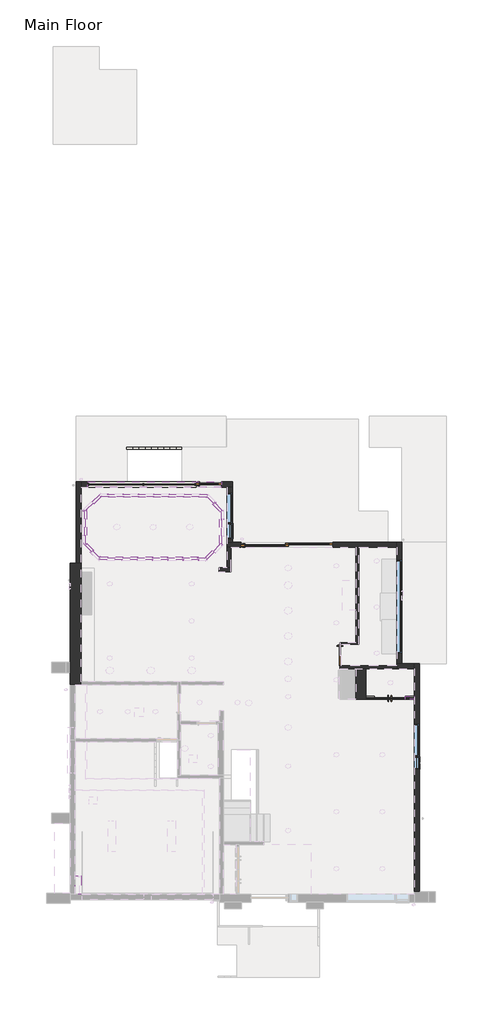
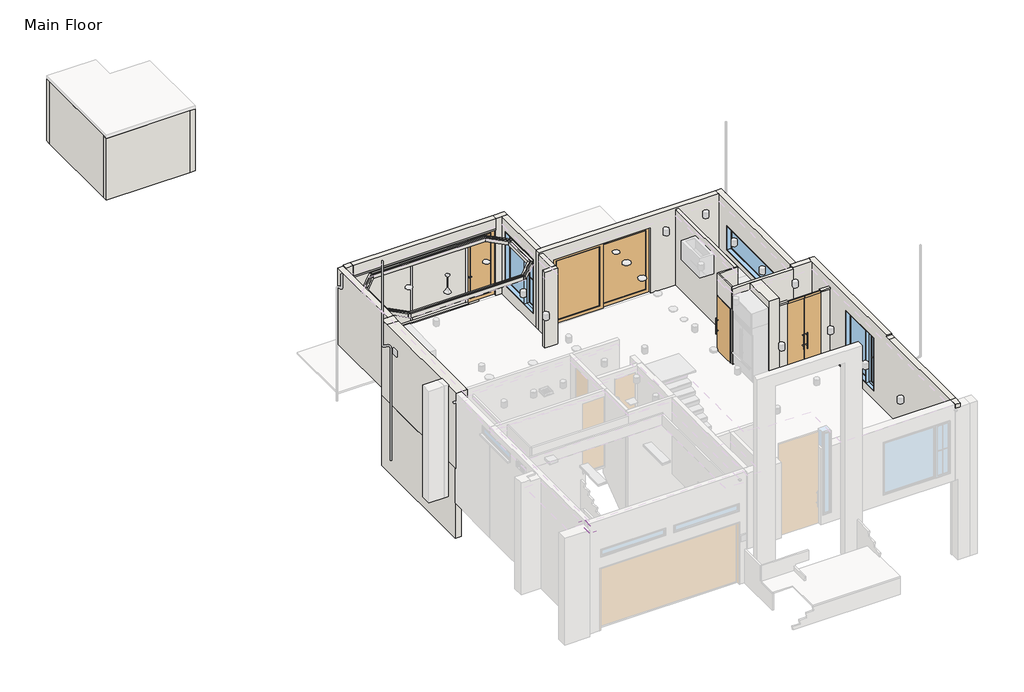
# One storey, part 2 of 4: 49 walls, 11 doors, 5 windows, 1 covering.
"""IFC4 building model written with IfcOpenShell, lengths in millimetres."""

from ifc_helpers import new_model, si_unit, frame, origin, origin_with_axes, place, context, project, spatial, polyline, outline, extrude, faceted_brep, transform, mapped, element, save
from components import door_f9c3aceb, door_71ea24f5, door_24a6677c, door_f6d2234c, door_3d285e39, door_d0fec1b0, door_3f9b8e73, door_c68eb9f7, door_82c8d47d, door_a6112daf, door_d809778b, default_1_b9475a36, default_1_ff99e3d3, default_1_269046d4, default_1_73fc72e4, default_1_8900c659

model = new_model("IFC4")

# Units and contexts
model_context = context("Model", 3, world=origin())
ifc_project = project(units=[si_unit("LENGTHUNIT", "METRE", prefix="MILLI")], contexts=[model_context])

# Site, building, storey
site = spatial("IfcSite", under=ifc_project)
building = spatial("IfcBuilding", under=site)
storey = spatial("IfcBuildingStorey", under=building, Name="Main Floor", Elevation=0.0)

# Covering
placement = place(None, origin())
element("IfcCovering", 1, ObjectType="1/2\" Ceiling", at=placement, inside=storey, context=model_context, shape_type="SweptSolid", body=[
    extrude(outline(polyline([(8017.6549773, 246.3909405), (8246.2549773, 246.3909405), (8246.2549773, -490.2090595), (8017.6549773, -490.2090595), (8017.6549773, 246.3909405)])), frame((0.0, 0.0, 2438.4), z_axis=(0.0, 0.0, 1.0), x_axis=(1.0, 0.0, 0.0)), (0.0, 0.0, 1.0), 12.7),
])

# Doors
door_shape = door_f9c3aceb(model_context)
element("IfcDoor", 2, ObjectType="Planitar - Swap_Full Glass_Panel_D2 : Planitar - Swap_Full Glass_Panel_D2", at=placement, inside=storey, context=model_context, shape_type="MappedRepresentation", body=[
    mapped(door_shape, transform((20196.9549773, 7280.7508405, 0.0), x_axis=(-1.0, 0.0, 0.0), y_axis=(0.0, -1.0, 0.0), z_axis=(0.0, 0.0, 1.0))),
])
door_2_shape = door_71ea24f5(model_context)
element("IfcDoor", 3, ObjectType="Planitar - Swap_Full Glass_Panel_D2 : Planitar - Swap_Full Glass_Panel_D2", at=placement, inside=storey, context=model_context, shape_type="MappedRepresentation", body=[
    mapped(door_2_shape, transform((20806.5549773, 7280.7508405, 0.0), x_axis=(1.0, 0.0, 0.0), y_axis=(0.0, 1.0, 0.0), z_axis=(0.0, 0.0, 1.0))),
])
door_3_shape = door_24a6677c(model_context)
element("IfcDoor", 4, ObjectType="Planitar - Swap_Flush Panel : Planitar - Swap_Flush Panel", at=placement, inside=storey, context=model_context, shape_type="MappedRepresentation", body=[
    mapped(door_3_shape, transform((18520.6517773, 9003.0409405, 0.0), x_axis=(0.0, -1.0, 0.0), y_axis=(1.0, 0.0, 0.0), z_axis=(0.0, 0.0, 1.0))),
])
door_4_shape = door_f6d2234c(model_context)
element("IfcDoor", 5, ObjectType="Planitar - Swap_Full Glass_Panel : Planitar - Swap_Full Glass_Panel", at=placement, inside=storey, context=model_context, shape_type="MappedRepresentation", body=[
    mapped(door_4_shape, transform((17295.1123773, 13403.5909405, 0.0), x_axis=(1.0, 0.0, 0.0), y_axis=(0.0, 1.0, 0.0), z_axis=(0.0, 0.0, 1.0))),
])
door_5_shape = door_3d285e39(model_context)
element("IfcDoor", 6, ObjectType="Planitar - Swap_Full Glass_Panel : Planitar - Swap_Full Glass_Panel", at=placement, inside=storey, context=model_context, shape_type="MappedRepresentation", body=[
    mapped(door_5_shape, transform((15542.5123773, 13352.7909405, 0.0), x_axis=(-1.0, 0.0, 0.0), y_axis=(0.0, -1.0, 0.0), z_axis=(0.0, 0.0, 1.0))),
])
door_6_shape = door_d0fec1b0(model_context)
element("IfcDoor", 7, ObjectType="Planitar - Swap_Full Glass_Panel : Planitar - Swap_Full Glass_Panel", at=placement, inside=storey, context=model_context, shape_type="MappedRepresentation", body=[
    mapped(door_6_shape, transform((13320.0017773, 15791.1909405, 0.0), x_axis=(1.0, 0.0, 0.0), y_axis=(0.0, 1.0, 0.0), z_axis=(0.0, 0.0, 1.0))),
])
door_7_shape = door_3f9b8e73(model_context)
element("IfcDoor", 8, ObjectType="Planitar - Swap_Barn Panel : Planitar - Swap_Barn Panel", at=placement, inside=storey, context=model_context, shape_type="MappedRepresentation", body=[
    mapped(door_7_shape, transform((10379.8517773, 31412.9463405, -2133.6), x_axis=(0.0, 1.0, 0.0), y_axis=(-1.0, 0.0, 0.0), z_axis=(0.0, 0.0, 1.0))),
])
door_8_shape = door_c68eb9f7(model_context)
element("IfcDoor", 9, ObjectType="Planitar - Single Door_Swapper : 7'0\" X 2'10\"", at=placement, inside=storey, context=model_context, shape_type="MappedRepresentation", body=[
    mapped(door_8_shape, transform((18546.0517773, 9003.0409405, 0.0), x_axis=(0.0, -1.0, 0.0), y_axis=(1.0, 0.0, 0.0), z_axis=(0.0, 0.0, 1.0))),
])
door_9_shape = door_82c8d47d(model_context)
element("IfcDoor", 10, ObjectType="Planitar - Sliding Door_Swapper : 8'6\" x 11'10\"", at=placement, inside=storey, context=model_context, shape_type="MappedRepresentation", body=[
    mapped(door_9_shape, transform((17447.5123773, 13378.1909405, 0.0), x_axis=(1.0, 0.0, 0.0), y_axis=(0.0, 1.0, 0.0), z_axis=(0.0, 0.0, 1.0))),
])
door_10_shape = door_a6112daf(model_context)
element("IfcDoor", 11, ObjectType="Planitar - Single Door_Swapper : 8'6\" x 3'4\"", at=placement, inside=storey, context=model_context, shape_type="MappedRepresentation", body=[
    mapped(door_10_shape, transform((13320.0017773, 15765.7909405, 0.0), x_axis=(1.0, 0.0, 0.0), y_axis=(0.0, 1.0, 0.0), z_axis=(0.0, 0.0, 1.0))),
])
door_11_shape = door_d809778b(model_context)
element("IfcDoor", 12, ObjectType="Planitar -Double Door_Swapper : 9'0\"-4'0\"", at=placement, inside=storey, context=model_context, shape_type="MappedRepresentation", body=[
    mapped(door_11_shape, transform((19892.1549773, 7306.1508405, 0.0), x_axis=(-1.0, 0.0, 0.0), y_axis=(0.0, -1.0, 0.0), z_axis=(0.0, 0.0, 1.0))),
])

# Walls
element("IfcWall", 13, ObjectType="Planitar - Generic 8\"", at=placement, inside=storey, context=model_context, shape_type="Brep", body=[
    faceted_brep([(21473.3049773, 8660.1409405, 0.0), (21473.3049773, 8456.9409405, 0.0), (21473.3049773, 7363.3008405, 0.0), (21473.3049773, 7249.0008405, 0.0), (21473.3049773, -388.6090595, 0.0), (21473.3049773, -388.6090595, 2844.8), (21473.3049773, -795.0090595, 2844.8), (21473.3049773, -795.0090595, 2997.2), (21473.3049773, -490.2090595, 2997.2), (21473.3049773, 3453.1409405, 2997.2), (21473.3049773, 3656.3409405, 2997.2), (21473.3049773, 3656.3409405, 3048.0), (21473.3049773, 8456.9409405, 3048.0), (21473.3049773, 8660.1409405, 3048.0), (21473.3049773, 6272.5409405, 2438.4), (21473.3049773, 4469.1409405, 2438.4), (21473.3049773, 4469.1409405, 355.6), (21473.3049773, 6272.5409405, 355.6), (21676.5049773, -388.6090595, 0.0), (21676.5049773, 8660.1409405, 0.0), (21676.5049773, 8660.1409405, 3048.0), (21676.5049773, 3656.3409405, 3048.0), (21676.5049773, 3656.3409405, 2997.2), (21676.5049773, 3453.1409405, 2997.2), (21676.5049773, -490.2090595, 2997.2), (21676.5049773, -795.0090595, 2997.2), (21676.5049773, -795.0090595, 2844.8), (21676.5049773, -388.6090595, 2844.8), (21676.5049773, 6272.5409405, 355.6), (21676.5049773, 4469.1409405, 355.6), (21676.5049773, 4469.1409405, 2438.4), (21676.5049773, 6272.5409405, 2438.4), (21549.6017773, -388.6090595, 0.0)], [[[0, 1, 2, 3, 4, 5, 6, 7, 8, 9, 10, 11, 12, 13], [14, 15, 16, 17]], [[18, 19, 20, 21, 22, 23, 24, 25, 26, 27], [28, 29, 30, 31]], [[4, 3, 2, 1, 0, 19, 18, 32]], [[0, 13, 20, 19]], [[15, 30, 29, 16]], [[16, 29, 28, 17]], [[30, 15, 14, 31]], [[17, 28, 31, 14]], [[4, 32, 18, 27, 5]], [[25, 7, 6, 26]], [[7, 25, 24, 8]], [[23, 9, 8, 24]], [[9, 23, 22, 10]], [[11, 10, 22, 21]], [[13, 12, 11, 21, 20]], [[6, 5, 27, 26]]]),
])
element("IfcWall", 14, ObjectType="Planitar - Generic 1' - 5\"", at=placement, inside=storey, context=model_context, shape_type="Brep", body=[
    faceted_brep([(8246.2549773, 7824.1282405, 0.0), (8246.2549773, 7938.4282405, 0.0), (8246.2549773, 12641.5909405, 0.0), (8246.2549773, 12641.5909405, 2997.2), (8246.2549773, 12298.6909405, 2997.2), (8246.2549773, 7938.4282405, 2997.2), (8246.2549773, 7824.1282405, 2997.2), (7814.4549773, 7824.1282405, 0.0), (7814.4549773, 7824.1282405, 2997.2), (7814.4549773, 12298.6909405, 2997.2), (7814.4549773, 12400.2909405, 2997.2), (7814.4549773, 12451.0909405, 2997.2), (7814.4549773, 12501.8909405, 2997.2), (7814.4549773, 12641.5909405, 2997.2), (7814.4549773, 12641.5909405, 2832.1), (7814.4549773, 12641.5909405, 0.0), (8017.6549773, 7824.1282405, 0.0), (8043.0549773, 12641.5909405, 0.0), (8043.0549773, 12641.5909405, 2997.2), (8017.6549773, 7824.1282405, 2997.2)], [[[0, 1, 2, 3, 4, 5, 6]], [[7, 8, 9, 10, 11, 12, 13, 14, 15]], [[2, 1, 0, 16, 7, 15, 17]], [[3, 2, 17, 15, 14, 13, 18]], [[0, 6, 19, 8, 7, 16]], [[4, 3, 18, 13, 12, 11, 10, 9]], [[6, 5, 4, 9, 8, 19]]]),
])
element("IfcWall", 15, ObjectType="Planitar - Generic 8\"", at=placement, inside=storey, context=model_context, shape_type="Brep", body=[
    faceted_brep([(8246.2549773, 15664.1909405, 0.0), (8500.3517773, 15664.1909405, 0.0), (8500.3517773, 15664.1909405, 50.8), (8500.3517773, 15664.1909405, 2590.8), (8500.3517773, 15664.1909405, 2641.6), (8500.3517773, 15664.1909405, 3048.0), (8246.2549773, 15664.1909405, 3048.0), (8246.2549773, 15867.3909405, 0.0), (8246.2549773, 15867.3909405, 2997.2), (8246.2549773, 15867.3909405, 3048.0), (8500.3517773, 15867.3909405, 3048.0), (8500.3517773, 15867.3909405, 2641.6), (8500.3517773, 15867.3909405, 50.8), (8500.3517773, 15867.3909405, 0.0)], [[[0, 1, 2, 3, 4, 5, 6]], [[7, 8, 9, 10, 11, 12, 13]], [[1, 0, 7, 13]], [[6, 5, 10, 9]], [[0, 6, 9, 8, 7]], [[1, 13, 12, 11, 10, 5, 4, 3, 2]]]),
])
element("IfcWall", 16, ObjectType="Planitar - Generic 8\"", at=placement, inside=storey, context=model_context, shape_type="Brep", body=[
    faceted_brep([(21473.3049773, 8660.1409405, 0.0), (21422.6017773, 8660.1409405, 0.0), (20984.3549773, 8660.1409405, 0.0), (20781.1549773, 8660.1409405, 0.0), (20781.1549773, 8660.1409405, 3048.0), (20984.3549773, 8660.1409405, 3048.0), (21447.9049773, 8660.1409405, 3048.0), (21473.3049773, 8660.1409405, 3048.0), (21473.3049773, 8456.9409405, 0.0), (21473.3049773, 8456.9409405, 3048.0), (21447.9049773, 8456.9409405, 3048.0), (20781.1549773, 8456.9409405, 3048.0), (20781.1549773, 8456.9409405, 2997.2), (20781.1549773, 8456.9409405, 0.0), (21422.6017773, 8456.9409405, 0.0), (20781.1549773, 8571.2409405, 0.0)], [[[0, 1, 2, 3, 4, 5, 6, 7]], [[8, 9, 10, 11, 12, 13, 14]], [[3, 2, 1, 0, 8, 14, 13, 15]], [[0, 7, 9, 8]], [[4, 3, 15, 13, 12, 11]], [[7, 6, 5, 4, 11, 10, 9]]]),
])
element("IfcWall", 17, ObjectType="Planitar - Generic 8\"", at=placement, inside=storey, context=model_context, shape_type="Brep", body=[
    faceted_brep([(20984.3549773, 8660.1409405, 0.0), (20984.3549773, 13479.7909405, 0.0), (20984.3549773, 13479.7909405, 3048.0), (20984.3549773, 8660.1409405, 3048.0), (20984.3549773, 12781.2906405, 1117.6), (20984.3549773, 9072.8912405, 1117.6), (20984.3549773, 9072.8912405, 2082.8), (20984.3549773, 12781.2906405, 2082.8), (20781.1549773, 8660.1409405, 0.0), (20781.1549773, 8660.1409405, 3048.0), (20781.1549773, 13276.5909405, 3048.0), (20781.1549773, 13479.7909405, 3048.0), (20781.1549773, 13479.7909405, 0.0), (20781.1549773, 13276.5909405, 0.0), (20781.1549773, 12781.2906405, 1117.6), (20781.1549773, 12781.2906405, 2082.8), (20781.1549773, 9072.8912405, 2082.8), (20781.1549773, 9072.8912405, 1117.6)], [[[0, 1, 2, 3], [4, 5, 6, 7]], [[8, 9, 10, 11, 12, 13], [14, 15, 16, 17]], [[1, 0, 8, 13, 12]], [[0, 3, 9, 8]], [[2, 1, 12, 11]], [[15, 14, 4, 7]], [[16, 15, 7, 6]], [[17, 16, 6, 5]], [[14, 17, 5, 4]], [[3, 2, 11, 10, 9]]]),
])
element("IfcWall", 18, ObjectType="Planitar - Generic 8\"", at=placement, inside=storey, context=model_context, shape_type="Brep", body=[
    faceted_brep([(20781.1549773, 13479.7909405, 3048.0), (20781.1549773, 13479.7909405, 0.0), (18234.9123773, 13479.7909405, 0.0), (18234.9123773, 13479.7909405, 2590.8), (14602.7123773, 13479.7909405, 2590.8), (14602.7123773, 13479.7909405, 0.0), (14253.3549773, 13479.7909405, 0.0), (14050.1549773, 13479.7909405, 0.0), (14050.1549773, 13479.7909405, 3048.0), (14253.3549773, 13479.7909405, 3048.0), (20781.1549773, 13276.5909405, 0.0), (20781.1549773, 13276.5909405, 3048.0), (14050.1549773, 13276.5909405, 3048.0), (14050.1549773, 13276.5909405, 2997.2), (14050.1549773, 13276.5909405, 0.0), (14202.5549773, 13276.5909405, 0.0), (14602.7123773, 13276.5909405, 0.0), (14602.7123773, 13276.5909405, 2590.8), (18234.9123773, 13276.5909405, 2590.8), (18234.9123773, 13276.5909405, 0.0), (19155.6623773, 13276.5909405, 0.0), (19269.9623773, 13276.5909405, 0.0)], [[[0, 1, 2, 3, 4, 5, 6, 7, 8, 9]], [[10, 11, 12, 13, 14, 15, 16, 17, 18, 19, 20, 21]], [[1, 10, 21, 20, 19, 2]], [[14, 7, 6, 5, 16, 15]], [[1, 0, 11, 10]], [[8, 7, 14, 13, 12]], [[0, 9, 8, 12, 11]], [[4, 17, 16, 5]], [[17, 4, 3, 18]], [[18, 3, 2, 19]]]),
])
element("IfcWall", 19, ObjectType="Planitar - Generic 8\"", at=placement, inside=storey, context=model_context, shape_type="SweptSolid", body=[
    extrude(outline(polyline([(15664.1909405, 0.0), (13479.7909405, 0.0), (13479.7909405, 3048.0), (15664.1909405, 3048.0), (15664.1909405, 0.0)]), holes=[polyline([(13613.1409405, 457.2), (15441.9409405, 457.2), (15441.9409405, 2590.8), (13613.1409405, 2590.8), (13613.1409405, 457.2)])]), frame((14050.1549773, 0.0, 0.0), z_axis=(1.0, 0.0, 0.0), x_axis=(0.0, 1.0, 0.0)), (0.0, 0.0, 1.0), 203.2),
])
element("IfcWall", 20, ObjectType="Planitar - Generic 6\"", at=placement, inside=storey, context=model_context, shape_type="SweptSolid", body=[
    extrude(outline(polyline([(14050.1549773, 12457.4409405), (14050.1549773, 13276.5909405), (14202.5549773, 13276.5909405), (14202.5549773, 12457.4409405), (14050.1549773, 12457.4409405)])), origin_with_axes(), (0.0, 0.0, 1.0), 2997.2),
])
element("IfcWall", 21, ObjectType="Planitar - Generic 6\"", at=placement, inside=storey, context=model_context, shape_type="Brep", body=[
    faceted_brep([(14202.5549773, 12457.4409405, 0.0), (14050.1549773, 12457.4409405, 0.0), (13720.1485773, 12457.4409405, 0.0), (13720.1485773, 12457.4409405, 2997.2), (14050.1549773, 12457.4409405, 2997.2), (14202.5549773, 12457.4409405, 2997.2), (14202.5549773, 12305.0409405, 0.0), (14202.5549773, 12305.0409405, 2997.2), (13720.1485773, 12305.0409405, 2997.2), (13720.1485773, 12305.0409405, 0.0)], [[[0, 1, 2, 3, 4, 5]], [[6, 7, 8, 9]], [[2, 1, 0, 6, 9]], [[3, 2, 9, 8]], [[0, 5, 7, 6]], [[5, 4, 3, 8, 7]]]),
])
element("IfcWall", 22, ObjectType="Planitar - Generic 1' - 4\"", at=placement, inside=storey, context=model_context, shape_type="SweptSolid", body=[
    extrude(outline(polyline([(19155.5549773, 7249.0008405), (19155.5549773, 8456.9409405), (19561.9549773, 8456.9409405), (19561.9549773, 7249.0008405), (19155.5549773, 7249.0008405)])), origin_with_axes(), (0.0, 0.0, 1.0), 2997.2),
])
element("IfcWall", 23, ObjectType="Planitar - Generic 4 1/2\"", at=placement, inside=storey, context=model_context, shape_type="Brep", body=[
    faceted_brep([(20781.1549773, 8571.2409405, 0.0), (18520.6517773, 8571.2409405, 0.0), (18520.6517773, 8571.2409405, 2133.6), (18520.6517773, 8571.2409405, 2997.2), (18571.4517773, 8571.2409405, 2997.2), (20781.1549773, 8571.2409405, 2997.2), (20781.1549773, 8456.9409405, 0.0), (20781.1549773, 8456.9409405, 2997.2), (19561.9549773, 8456.9409405, 2997.2), (19155.5549773, 8456.9409405, 2997.2), (18520.6517773, 8456.9409405, 2997.2), (18520.6517773, 8456.9409405, 0.0), (19155.5549773, 8456.9409405, 0.0), (19561.9549773, 8456.9409405, 0.0)], [[[0, 1, 2, 3, 4, 5]], [[6, 7, 8, 9, 10, 11, 12, 13]], [[1, 0, 6, 13, 12, 11]], [[0, 5, 7, 6]], [[3, 2, 1, 11, 10]], [[5, 4, 3, 10, 9, 8, 7]]]),
])
element("IfcWall", 24, ObjectType="Planitar - Generic 2\"", at=placement, inside=storey, context=model_context, shape_type="Brep", body=[
    faceted_brep([(18571.4517773, 9485.6409405, 0.0), (18571.4517773, 9485.6409405, 2997.2), (18571.4517773, 9434.8409405, 2997.2), (18571.4517773, 8571.2409405, 2997.2), (18571.4517773, 8571.2409405, 2133.6), (18571.4517773, 9434.8409405, 2133.6), (18571.4517773, 9434.8409405, 0.0), (18520.6517773, 9485.6409405, 2997.2), (18520.6517773, 9485.6409405, 0.0), (18520.6517773, 9434.8409405, 0.0), (18520.6517773, 9434.8409405, 2133.6), (18520.6517773, 8571.2409405, 2133.6), (18520.6517773, 8571.2409405, 2997.2)], [[[0, 1, 2, 3, 4, 5, 6]], [[7, 8, 9, 10, 11, 12]], [[8, 0, 6, 9]], [[3, 12, 11, 4]], [[1, 0, 8, 7]], [[3, 2, 1, 7, 12]], [[10, 5, 4, 11]], [[5, 10, 9, 6]]]),
])
element("IfcWall", 25, ObjectType="Planitar - Generic 2\"", at=placement, inside=storey, context=model_context, shape_type="Brep", body=[
    faceted_brep([(18571.4517773, 9434.8409405, 0.0), (19269.9623773, 9434.8409405, 0.0), (19269.9623773, 9434.8409405, 2997.2), (18571.4517773, 9434.8409405, 2997.2), (18571.4517773, 9434.8409405, 2133.6), (18571.4517773, 9485.6409405, 0.0), (18571.4517773, 9485.6409405, 2997.2), (19155.6623773, 9485.6409405, 2997.2), (19269.9623773, 9485.6409405, 2997.2), (19269.9623773, 9485.6409405, 0.0), (19155.6623773, 9485.6409405, 0.0)], [[[0, 1, 2, 3, 4]], [[5, 6, 7, 8, 9, 10]], [[1, 0, 5, 10, 9]], [[0, 4, 3, 6, 5]], [[2, 1, 9, 8]], [[3, 2, 8, 7, 6]]]),
])
element("IfcWall", 26, ObjectType="Planitar - Generic 4 1/2\"", at=placement, inside=storey, context=model_context, shape_type="SweptSolid", body=[
    extrude(outline(polyline([(19269.9623773, 13276.5909405), (19269.9623773, 9485.6409405), (19155.6623773, 9485.6409405), (19155.6623773, 13276.5909405), (19269.9623773, 13276.5909405)])), origin_with_axes(), (0.0, 0.0, 1.0), 2997.2),
])
element("IfcWall", 27, ObjectType="Planitar - Generic 4 1/2\"", at=placement, inside=storey, context=model_context, shape_type="Brep", body=[
    faceted_brep([(19561.9549773, 7249.0008405, 50.8), (19561.9549773, 7249.0008405, 0.0), (19892.1549773, 7249.0008405, 0.0), (19892.1549773, 7249.0008405, 50.8), (19561.9549773, 7363.3008405, 0.0), (19561.9549773, 7363.3008405, 50.8), (19892.1549773, 7363.3008405, 50.8), (19892.1549773, 7363.3008405, 0.0), (19561.9549773, 7293.4508405, 50.8), (19561.9549773, 7318.8508405, 50.8), (19892.1549773, 7293.4508405, 50.8), (19892.1549773, 7318.8508405, 50.8)], [[[0, 1, 2, 3]], [[4, 5, 6, 7]], [[1, 4, 7, 2]], [[1, 0, 8, 9, 5, 4]], [[5, 9, 8, 0, 3, 10, 11, 6]], [[3, 2, 7, 6, 11, 10]]]),
    faceted_brep([(21473.3049773, 7249.0008405, 0.0), (21473.3049773, 7249.0008405, 50.8), (21111.3549773, 7249.0008405, 50.8), (21111.3549773, 7249.0008405, 0.0), (21473.3049773, 7363.3008405, 50.8), (21473.3049773, 7363.3008405, 0.0), (21111.3549773, 7363.3008405, 0.0), (21111.3549773, 7363.3008405, 50.8), (21473.3049773, 7318.8508405, 50.8), (21473.3049773, 7293.4508405, 50.8), (21111.3549773, 7318.8508405, 50.8), (21111.3549773, 7293.4508405, 50.8)], [[[0, 1, 2, 3]], [[4, 5, 6, 7]], [[5, 0, 3, 6]], [[1, 0, 5, 4, 8, 9]], [[1, 9, 8, 4, 7, 10, 11, 2]], [[3, 2, 11, 10, 7, 6]]]),
])
element("IfcWall", 28, ObjectType="Planitar - Curtain wall (Curved)", at=placement, inside=storey, context=model_context, shape_type="SweptSolid", body=[
    extrude(outline(polyline([(19561.9549773, 7293.4508405), (19561.9549773, 7318.8508405), (19892.1549773, 7318.8508405), (19892.1549773, 7293.4508405), (19561.9549773, 7293.4508405)])), frame((0.0, 0.0, 50.8), z_axis=(0.0, 0.0, 1.0), x_axis=(1.0, 0.0, 0.0)), (0.0, 0.0, 1.0), 2641.6),
    extrude(outline(polyline([(21473.3049773, 7318.8508405), (21473.3049773, 7293.4508405), (21111.3549773, 7293.4508405), (21111.3549773, 7318.8508405), (21473.3049773, 7318.8508405)])), frame((0.0, 0.0, 50.8), z_axis=(0.0, 0.0, 1.0), x_axis=(1.0, 0.0, 0.0)), (0.0, 0.0, 1.0), 2641.6),
])
element("IfcWall", 29, ObjectType="Planitar - Generic 4 1/2\"", at=placement, inside=storey, context=model_context, shape_type="Brep", body=[
    faceted_brep([(19561.9549773, 7249.0008405, 2743.2), (19561.9549773, 7249.0008405, 2692.4), (19892.1549773, 7249.0008405, 2692.4), (19892.1549773, 7249.0008405, 2743.2), (19561.9549773, 7363.3008405, 2692.4), (19561.9549773, 7363.3008405, 2743.2), (19892.1549773, 7363.3008405, 2743.2), (19892.1549773, 7363.3008405, 2692.4), (19561.9549773, 7293.4508405, 2692.4), (19561.9549773, 7318.8508405, 2692.4), (19892.1549773, 7318.8508405, 2692.4), (19892.1549773, 7293.4508405, 2692.4)], [[[0, 1, 2, 3]], [[4, 5, 6, 7]], [[1, 8, 9, 4, 7, 10, 11, 2]], [[1, 0, 5, 4, 9, 8]], [[5, 0, 3, 6]], [[3, 2, 11, 10, 7, 6]]]),
    faceted_brep([(21473.3049773, 7249.0008405, 2692.4), (21473.3049773, 7249.0008405, 2743.2), (21111.3549773, 7249.0008405, 2743.2), (21111.3549773, 7249.0008405, 2692.4), (21473.3049773, 7363.3008405, 2743.2), (21473.3049773, 7363.3008405, 2692.4), (21111.3549773, 7363.3008405, 2692.4), (21111.3549773, 7363.3008405, 2743.2), (21473.3049773, 7318.8508405, 2692.4), (21473.3049773, 7293.4508405, 2692.4), (21111.3549773, 7293.4508405, 2692.4), (21111.3549773, 7318.8508405, 2692.4)], [[[0, 1, 2, 3]], [[4, 5, 6, 7]], [[5, 8, 9, 0, 3, 10, 11, 6]], [[1, 0, 9, 8, 5, 4]], [[1, 4, 7, 2]], [[3, 2, 7, 6, 11, 10]]]),
])
element("IfcWall", 30, ObjectType="Planitar - Generic 4 1/2\"", at=placement, inside=storey, context=model_context, shape_type="Brep", body=[
    faceted_brep([(8252.7985773, 12326.8113405, 0.0), (8653.0474773, 12326.8113405, 0.0), (8767.3474773, 12326.8113405, 0.0), (8767.3474773, 12326.8113405, 558.8), (8653.0474773, 12326.8113405, 558.8), (8252.7985773, 12326.8113405, 558.8), (8767.3474773, 12441.1113405, 0.0), (8252.7985773, 12441.1113405, 0.0), (8252.7985773, 12441.1113405, 558.8), (8767.3474773, 12441.1113405, 558.8)], [[[0, 1, 2, 3, 4, 5]], [[6, 7, 8, 9]], [[2, 1, 0, 7, 6]], [[7, 0, 5, 8]], [[2, 6, 9, 3]], [[5, 4, 3, 9, 8]]]),
])
element("IfcWall", 31, ObjectType="Planitar - Generic 4 1/2\"", at=placement, inside=storey, context=model_context, shape_type="SweptSolid", body=[
    extrude(outline(polyline([(8653.0474773, 7938.4282405), (8653.0474773, 12326.8113405), (8767.3474773, 12326.8113405), (8767.3474773, 7938.4282405), (8653.0474773, 7938.4282405)])), origin_with_axes(), (0.0, 0.0, 1.0), 558.8),
])
element("IfcWall", 32, ObjectType="Planitar - Generic 8\"", at=placement, inside=storey, context=model_context, shape_type="Brep", body=[
    faceted_brep([(13828.0017773, 15664.1909405, 3048.0), (13828.0017773, 15664.1909405, 2641.6), (13828.0017773, 15664.1909405, 2590.8), (13828.0017773, 15664.1909405, 0.0), (14050.1549773, 15664.1909405, 0.0), (14253.3549773, 15664.1909405, 0.0), (14253.3549773, 15664.1909405, 3048.0), (14050.1549773, 15664.1909405, 3048.0), (13828.0017773, 15867.3909405, 0.0), (13828.0017773, 15867.3909405, 2641.6), (13828.0017773, 15867.3909405, 3048.0), (14253.3549773, 15867.3909405, 3048.0), (14253.3549773, 15867.3909405, 0.0)], [[[0, 1, 2, 3, 4, 5, 6, 7]], [[8, 9, 10, 11, 12]], [[5, 4, 3, 8, 12]], [[0, 7, 6, 11, 10]], [[6, 5, 12, 11]], [[0, 10, 9, 8, 3, 2, 1]]]),
])
element("IfcWall", 33, ObjectType="Planitar - Generic 8\"", at=placement, inside=storey, context=model_context, shape_type="Brep", body=[
    faceted_brep([(8500.3517773, 15664.1909405, 50.8), (8500.3517773, 15664.1909405, 0.0), (12812.0017773, 15664.1909405, 0.0), (12812.0017773, 15664.1909405, 50.8), (8500.3517773, 15867.3909405, 0.0), (8500.3517773, 15867.3909405, 50.8), (12812.0017773, 15867.3909405, 50.8), (12812.0017773, 15867.3909405, 0.0), (8500.3517773, 15778.4909405, 50.8), (8500.3517773, 15753.0909405, 50.8), (12812.0017773, 15753.0909405, 50.8), (12812.0017773, 15778.4909405, 50.8)], [[[0, 1, 2, 3]], [[4, 5, 6, 7]], [[1, 4, 7, 2]], [[5, 8, 9, 0, 3, 10, 11, 6]], [[1, 0, 9, 8, 5, 4]], [[3, 2, 7, 6, 11, 10]]]),
])
element("IfcWall", 34, ObjectType="Planitar - Curtain wall (Curved)", at=placement, inside=storey, context=model_context, shape_type="SweptSolid", body=[
    extrude(outline(polyline([(69.85, 10750.8540111), (69.85, 10687.3540111), (2590.8, 10687.3540111), (2590.8, 8563.8517773), (69.85, 8563.8517773), (69.85, 8500.3517773), (50.8, 8500.3517773), (50.8, 12812.0017773), (69.85, 12812.0017773), (69.85, 12748.5017773), (2590.8, 12748.5017773), (2590.8, 10750.8540111), (69.85, 10750.8540111)])), frame((0.0, 15753.0909405, 0.0), z_axis=(0.0, 1.0, 0.0), x_axis=(0.0, 0.0, 1.0)), (0.0, 0.0, 1.0), 25.4),
])
element("IfcWall", 35, ObjectType="Planitar - Generic 8\"", at=placement, inside=storey, context=model_context, shape_type="SweptSolid", body=[
    extrude(outline(polyline([(13828.0017773, 15664.1909405), (8500.3517773, 15664.1909405), (8500.3517773, 15867.3909405), (13828.0017773, 15867.3909405), (13828.0017773, 15664.1909405)])), frame((0.0, 0.0, 2641.6), z_axis=(0.0, 0.0, 1.0), x_axis=(1.0, 0.0, 0.0)), (0.0, 0.0, 1.0), 406.4),
])
element("IfcWall", 36, ObjectType="Planitar - Generic 2\"", at=placement, inside=storey, context=model_context, shape_type="Brep", body=[
    faceted_brep([(8474.9517773, 13369.4750385, 2603.5), (8474.9517773, 13441.3170874, 2603.5), (8474.9517773, 14712.0647936, 2603.5), (8474.9517773, 14783.9068426, 2603.5), (8474.9517773, 14783.9068426, 2743.2), (8474.9517773, 14712.0647936, 2743.2), (8474.9517773, 13441.3170874, 2743.2), (8474.9517773, 13369.4750385, 2743.2), (8424.1517773, 13420.2750385, 2603.5), (8424.1517773, 13420.2750385, 2743.2), (8424.1517773, 14733.1068426, 2743.2), (8424.1517773, 14733.1068426, 2603.5)], [[[0, 1, 2, 3, 4, 5, 6, 7]], [[8, 9, 10, 11]], [[3, 2, 1, 0, 8, 11]], [[7, 6, 5, 4, 10, 9]], [[4, 3, 11, 10]], [[0, 7, 9, 8]]]),
])
element("IfcWall", 37, ObjectType="Planitar - Generic 2\"", at=placement, inside=storey, context=model_context, shape_type="Brep", body=[
    faceted_brep([(8474.9517773, 14712.0647936, 2603.5), (9020.6779242, 15257.7909405, 2603.5), (9071.4779242, 15308.5909405, 2603.5), (9071.4779242, 15308.5909405, 2743.2), (9020.6779242, 15257.7909405, 2743.2), (8474.9517773, 14712.0647936, 2743.2), (8474.9517773, 14783.9068426, 2603.5), (8474.9517773, 14783.9068426, 2743.2), (8999.6358753, 15308.5909405, 2743.2), (8999.6358753, 15308.5909405, 2603.5)], [[[0, 1, 2, 3, 4, 5]], [[6, 7, 8, 9]], [[2, 1, 0, 6, 9]], [[5, 4, 3, 8, 7]], [[0, 5, 7, 6]], [[3, 2, 9, 8]]]),
])
element("IfcWall", 38, ObjectType="Planitar - Generic 2\"", at=placement, inside=storey, context=model_context, shape_type="Brep", body=[
    faceted_brep([(9020.6779242, 15257.7909405, 2603.5), (13199.7256304, 15257.7909405, 2603.5), (13271.5676794, 15257.7909405, 2603.5), (13271.5676794, 15257.7909405, 2743.2), (13199.7256304, 15257.7909405, 2743.2), (9020.6779242, 15257.7909405, 2743.2), (9071.4779242, 15308.5909405, 2603.5), (9071.4779242, 15308.5909405, 2743.2), (13220.7676794, 15308.5909405, 2743.2), (13220.7676794, 15308.5909405, 2603.5)], [[[0, 1, 2, 3, 4, 5]], [[6, 7, 8, 9]], [[2, 1, 0, 6, 9]], [[5, 4, 3, 8, 7]], [[0, 5, 7, 6]], [[3, 2, 9, 8]]]),
])
element("IfcWall", 39, ObjectType="Planitar - Generic 2\"", at=placement, inside=storey, context=model_context, shape_type="Brep", body=[
    faceted_brep([(13199.7256304, 15257.7909405, 2603.5), (13745.4517773, 14712.0647936, 2603.5), (13796.2517773, 14661.2647936, 2603.5), (13796.2517773, 14661.2647936, 2743.2), (13745.4517773, 14712.0647936, 2743.2), (13199.7256304, 15257.7909405, 2743.2), (13271.5676794, 15257.7909405, 2603.5), (13271.5676794, 15257.7909405, 2743.2), (13796.2517773, 14733.1068426, 2743.2), (13796.2517773, 14733.1068426, 2603.5)], [[[0, 1, 2, 3, 4, 5]], [[6, 7, 8, 9]], [[2, 1, 0, 6, 9]], [[5, 4, 3, 8, 7]], [[0, 5, 7, 6]], [[3, 2, 9, 8]]]),
])
element("IfcWall", 40, ObjectType="Planitar - Generic 2\"", at=placement, inside=storey, context=model_context, shape_type="Brep", body=[
    faceted_brep([(13745.4517773, 14712.0647936, 2603.5), (13745.4517773, 13441.3170874, 2603.5), (13745.4517773, 13369.4750385, 2603.5), (13745.4517773, 13369.4750385, 2743.2), (13745.4517773, 13441.3170874, 2743.2), (13745.4517773, 14712.0647936, 2743.2), (13796.2517773, 14661.2647936, 2603.5), (13796.2517773, 14661.2647936, 2743.2), (13796.2517773, 13420.2750385, 2743.2), (13796.2517773, 13420.2750385, 2603.5)], [[[0, 1, 2, 3, 4, 5]], [[6, 7, 8, 9]], [[2, 1, 0, 6, 9]], [[5, 4, 3, 8, 7]], [[0, 5, 7, 6]], [[3, 2, 9, 8]]]),
])
element("IfcWall", 41, ObjectType="Planitar - Generic 2\"", at=placement, inside=storey, context=model_context, shape_type="Brep", body=[
    faceted_brep([(13745.4517773, 13441.3170874, 2603.5), (13199.7256304, 12895.5909405, 2603.5), (13148.9256304, 12844.7909405, 2603.5), (13148.9256304, 12844.7909405, 2743.2), (13199.7256304, 12895.5909405, 2743.2), (13745.4517773, 13441.3170874, 2743.2), (13745.4517773, 13369.4750385, 2603.5), (13745.4517773, 13369.4750385, 2743.2), (13220.7676794, 12844.7909405, 2743.2), (13220.7676794, 12844.7909405, 2603.5)], [[[0, 1, 2, 3, 4, 5]], [[6, 7, 8, 9]], [[2, 1, 0, 6, 9]], [[5, 4, 3, 8, 7]], [[0, 5, 7, 6]], [[3, 2, 9, 8]]]),
])
element("IfcWall", 42, ObjectType="Planitar - Generic 2\"", at=placement, inside=storey, context=model_context, shape_type="Brep", body=[
    faceted_brep([(13199.7256304, 12895.5909405, 2603.5), (9020.6779242, 12895.5909405, 2603.5), (8948.8358753, 12895.5909405, 2603.5), (8948.8358753, 12895.5909405, 2743.2), (9020.6779242, 12895.5909405, 2743.2), (13199.7256304, 12895.5909405, 2743.2), (13148.9256304, 12844.7909405, 2603.5), (13148.9256304, 12844.7909405, 2743.2), (8999.6358753, 12844.7909405, 2743.2), (8999.6358753, 12844.7909405, 2603.5)], [[[0, 1, 2, 3, 4, 5]], [[6, 7, 8, 9]], [[2, 1, 0, 6, 9]], [[5, 4, 3, 8, 7]], [[0, 5, 7, 6]], [[3, 2, 9, 8]]]),
])
element("IfcWall", 43, ObjectType="Planitar - Generic 2\"", at=placement, inside=storey, context=model_context, shape_type="SweptSolid", body=[
    extrude(outline(polyline([(8474.9517773, 13441.3170874), (9020.6779242, 12895.5909405), (8948.8358753, 12895.5909405), (8474.9517773, 13369.4750385), (8474.9517773, 13441.3170874)])), frame((0.0, 0.0, 2603.5), z_axis=(0.0, 0.0, 1.0), x_axis=(1.0, 0.0, 0.0)), (0.0, 0.0, 1.0), 139.7),
])
element("IfcWall", 44, ObjectType="Planitar - Generic 2\"", at=placement, inside=storey, context=model_context, shape_type="Brep", body=[
    faceted_brep([(8322.5517773, 14703.3488916, 2603.5), (8373.3517773, 14754.1488916, 2603.5), (8978.5938263, 15359.3909405, 2603.5), (9029.3938263, 15410.1909405, 2603.5), (9029.3938263, 15410.1909405, 2743.2), (8978.5938263, 15359.3909405, 2743.2), (8373.3517773, 14754.1488916, 2743.2), (8322.5517773, 14703.3488916, 2743.2), (8322.5517773, 14775.1909405, 2603.5), (8322.5517773, 14775.1909405, 2743.2), (8957.5517773, 15410.1909405, 2743.2), (8957.5517773, 15410.1909405, 2603.5)], [[[0, 1, 2, 3, 4, 5, 6, 7]], [[8, 9, 10, 11]], [[3, 2, 1, 0, 8, 11]], [[7, 6, 5, 4, 10, 9]], [[4, 3, 11, 10]], [[0, 7, 9, 8]]]),
])
element("IfcWall", 45, ObjectType="Planitar - Generic 2\"", at=placement, inside=storey, context=model_context, shape_type="Brep", body=[
    faceted_brep([(8978.5938263, 15359.3909405, 2603.5), (13241.8097284, 15359.3909405, 2603.5), (13313.6517773, 15359.3909405, 2603.5), (13313.6517773, 15359.3909405, 2743.2), (13241.8097284, 15359.3909405, 2743.2), (8978.5938263, 15359.3909405, 2743.2), (9029.3938263, 15410.1909405, 2603.5), (9029.3938263, 15410.1909405, 2743.2), (13262.8517773, 15410.1909405, 2743.2), (13262.8517773, 15410.1909405, 2603.5)], [[[0, 1, 2, 3, 4, 5]], [[6, 7, 8, 9]], [[2, 1, 0, 6, 9]], [[5, 4, 3, 8, 7]], [[0, 5, 7, 6]], [[3, 2, 9, 8]]]),
])
element("IfcWall", 46, ObjectType="Planitar - Generic 2\"", at=placement, inside=storey, context=model_context, shape_type="Brep", body=[
    faceted_brep([(13241.8097284, 15359.3909405, 2603.5), (13847.0517773, 14754.1488916, 2603.5), (13897.8517773, 14703.3488916, 2603.5), (13897.8517773, 14703.3488916, 2743.2), (13847.0517773, 14754.1488916, 2743.2), (13241.8097284, 15359.3909405, 2743.2), (13313.6517773, 15359.3909405, 2603.5), (13313.6517773, 15359.3909405, 2743.2), (13897.8517773, 14775.1909405, 2743.2), (13897.8517773, 14775.1909405, 2603.5)], [[[0, 1, 2, 3, 4, 5]], [[6, 7, 8, 9]], [[2, 1, 0, 6, 9]], [[5, 4, 3, 8, 7]], [[0, 5, 7, 6]], [[3, 2, 9, 8]]]),
])
element("IfcWall", 47, ObjectType="Planitar - Generic 2\"", at=placement, inside=storey, context=model_context, shape_type="Brep", body=[
    faceted_brep([(13847.0517773, 14754.1488916, 2603.5), (13847.0517773, 13399.2329895, 2603.5), (13847.0517773, 13327.3909405, 2603.5), (13847.0517773, 13327.3909405, 2743.2), (13847.0517773, 13399.2329895, 2743.2), (13847.0517773, 14754.1488916, 2743.2), (13897.8517773, 14703.3488916, 2603.5), (13897.8517773, 14703.3488916, 2743.2), (13897.8517773, 13378.1909405, 2743.2), (13897.8517773, 13378.1909405, 2603.5)], [[[0, 1, 2, 3, 4, 5]], [[6, 7, 8, 9]], [[2, 1, 0, 6, 9]], [[5, 4, 3, 8, 7]], [[0, 5, 7, 6]], [[3, 2, 9, 8]]]),
])
element("IfcWall", 48, ObjectType="Planitar - Generic 2\"", at=placement, inside=storey, context=model_context, shape_type="Brep", body=[
    faceted_brep([(13847.0517773, 13399.2329895, 2603.5), (13241.8097284, 12793.9909405, 2603.5), (13191.0097284, 12743.1909405, 2603.5), (13191.0097284, 12743.1909405, 2743.2), (13241.8097284, 12793.9909405, 2743.2), (13847.0517773, 13399.2329895, 2743.2), (13847.0517773, 13327.3909405, 2603.5), (13847.0517773, 13327.3909405, 2743.2), (13262.8517773, 12743.1909405, 2743.2), (13262.8517773, 12743.1909405, 2603.5)], [[[0, 1, 2, 3, 4, 5]], [[6, 7, 8, 9]], [[2, 1, 0, 6, 9]], [[5, 4, 3, 8, 7]], [[0, 5, 7, 6]], [[3, 2, 9, 8]]]),
])
element("IfcWall", 49, ObjectType="Planitar - Generic 2\"", at=placement, inside=storey, context=model_context, shape_type="Brep", body=[
    faceted_brep([(13241.8097284, 12793.9909405, 2603.5), (8978.5938263, 12793.9909405, 2603.5), (8906.7517773, 12793.9909405, 2603.5), (8906.7517773, 12793.9909405, 2743.2), (8978.5938263, 12793.9909405, 2743.2), (13241.8097284, 12793.9909405, 2743.2), (13191.0097284, 12743.1909405, 2603.5), (13191.0097284, 12743.1909405, 2743.2), (8957.5517773, 12743.1909405, 2743.2), (8957.5517773, 12743.1909405, 2603.5)], [[[0, 1, 2, 3, 4, 5]], [[6, 7, 8, 9]], [[2, 1, 0, 6, 9]], [[5, 4, 3, 8, 7]], [[0, 5, 7, 6]], [[3, 2, 9, 8]]]),
])
element("IfcWall", 50, ObjectType="Planitar - Generic 2\"", at=placement, inside=storey, context=model_context, shape_type="Brep", body=[
    faceted_brep([(8978.5938263, 12793.9909405, 2603.5), (8373.3517773, 13399.2329895, 2603.5), (8322.5517773, 13450.0329895, 2603.5), (8322.5517773, 13450.0329895, 2743.2), (8373.3517773, 13399.2329895, 2743.2), (8978.5938263, 12793.9909405, 2743.2), (8906.7517773, 12793.9909405, 2603.5), (8906.7517773, 12793.9909405, 2743.2), (8322.5517773, 13378.1909405, 2743.2), (8322.5517773, 13378.1909405, 2603.5)], [[[0, 1, 2, 3, 4, 5]], [[6, 7, 8, 9]], [[2, 1, 0, 6, 9]], [[5, 4, 3, 8, 7]], [[0, 5, 7, 6]], [[3, 2, 9, 8]]]),
])
element("IfcWall", 51, ObjectType="Planitar - Generic 2\"", at=placement, inside=storey, context=model_context, shape_type="SweptSolid", body=[
    extrude(outline(polyline([(8373.3517773, 14754.1488916), (8373.3517773, 13399.2329895), (8322.5517773, 13450.0329895), (8322.5517773, 14703.3488916), (8373.3517773, 14754.1488916)])), frame((0.0, 0.0, 2603.5), z_axis=(0.0, 0.0, 1.0), x_axis=(1.0, 0.0, 0.0)), (0.0, 0.0, 1.0), 139.7),
])
element("IfcWall", 52, ObjectType="Planitar - Generic 3\"", at=placement, inside=storey, context=model_context, shape_type="SweptSolid", body=[
    extrude(outline(polyline([(-1930.4, 10082.3971211), (-1930.4, 14001.8174773), (-1447.8, 14001.8174773), (-1447.8, 14050.2517773), (-50.8, 14050.2517773), (-50.8, 12280.4081139), (-243.04, 12305.3045085), (-243.04, 12034.0342812), (-436.08, 12059.0342812), (-436.08, 11787.7640539), (-629.12, 11812.7640539), (-629.12, 11541.4938266), (-822.16, 11566.4938266), (-822.16, 11295.2235994), (-1015.2, 11320.2235994), (-1015.2, 11048.9533721), (-1208.24, 11073.9533721), (-1208.24, 10802.6831448), (-1401.28, 10827.6831448), (-1401.28, 10556.4129176), (-1594.32, 10581.4129176), (-1594.32, 10310.1426903), (-1787.36, 10335.1426903), (-1787.36, 10063.872463), (-1930.4, 10082.3971211)])), frame((0.0, 17162.7909405, 0.0), z_axis=(0.0, 1.0, 0.0), x_axis=(0.0, 0.0, 1.0)), (0.0, 0.0, 1.0), 76.2),
])
element("IfcWall", 53, ObjectType="Planitar - Generic 8\"", at=placement, inside=storey, context=model_context, shape_type="Brep", body=[
    faceted_brep([(8246.2549773, 12641.5909405, 0.0), (8246.2549773, 15664.1909405, 0.0), (8246.2549773, 15867.3909405, 0.0), (8246.2549773, 15867.3909405, 2997.2), (8246.2549773, 12641.5909405, 2997.2), (8043.0549773, 12641.5909405, 0.0), (8043.0549773, 12641.5909405, 2997.2), (8043.0549773, 15867.3909405, 2997.2), (8043.0549773, 15867.3909405, 0.0)], [[[0, 1, 2, 3, 4]], [[5, 6, 7, 8]], [[2, 1, 0, 5, 8]], [[4, 3, 7, 6]], [[0, 4, 6, 5]], [[3, 2, 8, 7]]]),
])
element("IfcWall", 54, ObjectType="Planitar - Generic 9\"", at=placement, inside=storey, context=model_context, shape_type="Brep", body=[
    faceted_brep([(7814.5517773, 12641.5909405, -2763.2785092), (7814.5517773, 7881.2782405, -2763.2785092), (7814.5517773, 7881.2782405, -1371.6), (7814.5517773, 7881.2782405, 0.0), (7814.5517773, 12641.5909405, 0.0), (8043.1517773, 12641.5909405, -2763.2785092), (8043.1517773, 12641.5909405, 0.0), (8043.1517773, 7881.2782405, 0.0), (8043.1517773, 7881.2782405, -2763.2785092), (8017.6549773, 7881.2782405, 0.0)], [[[0, 1, 2, 3, 4]], [[5, 6, 7, 8]], [[1, 0, 5, 8]], [[3, 2, 1, 8, 7, 9]], [[4, 3, 9, 7, 6]], [[0, 4, 6, 5]]]),
])
element("IfcWall", 55, ObjectType="Planitar - Generic 8\"", at=placement, inside=storey, context=model_context, shape_type="SweptSolid", body=[
    extrude(outline(polyline([(13828.0017773, 15664.1909405), (8500.3517773, 15664.1909405), (8500.3517773, 15867.3909405), (13828.0017773, 15867.3909405), (13828.0017773, 15664.1909405)])), frame((0.0, 0.0, 2590.8), z_axis=(0.0, 0.0, 1.0), x_axis=(1.0, 0.0, 0.0)), (0.0, 0.0, 1.0), 50.8),
])
element("IfcWall", 56, ObjectType="Planitar - Generic 8\"", at=placement, inside=storey, context=model_context, shape_type="Brep", body=[
    faceted_brep([(7135.0017773, 32930.5963405, -2133.6), (7338.2017773, 32930.5963405, -2133.6), (8766.9517773, 32930.5963405, -2133.6), (8970.1517773, 32930.5963405, -2133.6), (8970.1517773, 32930.5963405, 304.8), (8766.9517773, 32930.5963405, 304.8), (7338.2017773, 32930.5963405, 304.8), (7135.0017773, 32930.5963405, 304.8), (7135.0017773, 33133.7963405, -2133.6), (7135.0017773, 33133.7963405, 304.8), (8970.1517773, 33133.7963405, 304.8), (8970.1517773, 33133.7963405, -2133.6)], [[[0, 1, 2, 3, 4, 5, 6, 7]], [[8, 9, 10, 11]], [[3, 2, 1, 0, 8, 11]], [[7, 6, 5, 4, 10, 9]], [[4, 3, 11, 10]], [[0, 7, 9, 8]]]),
])
element("IfcWall", 57, ObjectType="Planitar - Generic 8\"", at=placement, inside=storey, context=model_context, shape_type="Brep", body=[
    faceted_brep([(8766.9517773, 32930.5963405, -2133.6), (8766.9517773, 32016.1963405, -2133.6), (8766.9517773, 32016.1963405, 304.8), (8766.9517773, 32930.5963405, 304.8), (8970.1517773, 32930.5963405, -2133.6), (8970.1517773, 32930.5963405, 304.8), (8970.1517773, 32219.3963405, 304.8), (8970.1517773, 32016.1963405, 304.8), (8970.1517773, 32016.1963405, -2133.6), (8970.1517773, 32219.3963405, -2133.6)], [[[0, 1, 2, 3]], [[4, 5, 6, 7, 8, 9]], [[1, 0, 4, 9, 8]], [[3, 2, 7, 6, 5]], [[0, 3, 5, 4]], [[2, 1, 8, 7]]]),
])
element("IfcWall", 58, ObjectType="Planitar - Generic 8\"", at=placement, inside=storey, context=model_context, shape_type="Brep", body=[
    faceted_brep([(8970.1517773, 32016.1963405, -2133.6), (10252.8517773, 32016.1963405, -2133.6), (10456.0517773, 32016.1963405, -2133.6), (10456.0517773, 32016.1963405, 304.8), (10252.8517773, 32016.1963405, 304.8), (8970.1517773, 32016.1963405, 304.8), (8970.1517773, 32219.3963405, -2133.6), (8970.1517773, 32219.3963405, 304.8), (10456.0517773, 32219.3963405, 304.8), (10456.0517773, 32219.3963405, -2133.6)], [[[0, 1, 2, 3, 4, 5]], [[6, 7, 8, 9]], [[2, 1, 0, 6, 9]], [[5, 4, 3, 8, 7]], [[0, 5, 7, 6]], [[3, 2, 9, 8]]]),
])
element("IfcWall", 59, ObjectType="Planitar - Generic 8\"", at=placement, inside=storey, context=model_context, shape_type="Brep", body=[
    faceted_brep([(10252.8517773, 29266.6463405, 304.8), (10252.8517773, 29469.8463405, 304.8), (10252.8517773, 32016.1963405, 304.8), (10252.8517773, 32016.1963405, -2133.6), (10252.8517773, 31870.1463405, -2133.6), (10252.8517773, 31870.1463405, -101.6), (10252.8517773, 30955.7463405, -101.6), (10252.8517773, 30955.7463405, -2133.6), (10252.8517773, 29469.8463405, -2133.6), (10252.8517773, 29266.6463405, -2133.6), (10456.0517773, 32016.1963405, 304.8), (10456.0517773, 29266.6463405, 304.8), (10456.0517773, 29266.6463405, -2133.6), (10456.0517773, 30955.7463405, -2133.6), (10456.0517773, 30955.7463405, -101.6), (10456.0517773, 31870.1463405, -101.6), (10456.0517773, 31870.1463405, -2133.6), (10456.0517773, 32016.1963405, -2133.6)], [[[0, 1, 2, 3, 4, 5, 6, 7, 8, 9]], [[10, 11, 12, 13, 14, 15, 16, 17]], [[3, 17, 16, 4]], [[12, 9, 8, 7, 13]], [[2, 1, 0, 11, 10]], [[3, 2, 10, 17]], [[0, 9, 12, 11]], [[15, 5, 4, 16]], [[5, 15, 14, 6]], [[6, 14, 13, 7]]]),
])
element("IfcWall", 60, ObjectType="Planitar - Generic 8\"", at=placement, inside=storey, context=model_context, shape_type="Brep", body=[
    faceted_brep([(10252.8517773, 29469.8463405, -2133.6), (7338.2017773, 29469.8463405, -2133.6), (7135.0017773, 29469.8463405, -2133.6), (7135.0017773, 29469.8463405, 304.8), (7338.2017773, 29469.8463405, 304.8), (10252.8517773, 29469.8463405, 304.8), (10252.8517773, 29266.6463405, -2133.6), (10252.8517773, 29266.6463405, 304.8), (7135.0017773, 29266.6463405, 304.8), (7135.0017773, 29266.6463405, -2133.6)], [[[0, 1, 2, 3, 4, 5]], [[6, 7, 8, 9]], [[2, 1, 0, 6, 9]], [[5, 4, 3, 8, 7]], [[0, 5, 7, 6]], [[3, 2, 9, 8]]]),
])
element("IfcWall", 61, ObjectType="Planitar - Generic 8\"", at=placement, inside=storey, context=model_context, shape_type="SweptSolid", body=[
    extrude(outline(polyline([(7338.2017773, 32930.5963405), (7338.2017773, 29469.8463405), (7135.0017773, 29469.8463405), (7135.0017773, 32930.5963405), (7338.2017773, 32930.5963405)])), frame((0.0, 0.0, -2133.6), z_axis=(0.0, 0.0, 1.0), x_axis=(1.0, 0.0, 0.0)), (0.0, 0.0, 1.0), 2438.4),
])

# Windows
default_1_shape = default_1_b9475a36(model_context)
element("IfcWindow", 62, ObjectType="Planitar-Casement-Single_Left : Default 1", at=placement, inside=storey, context=model_context, shape_type="MappedRepresentation", body=[
    mapped(default_1_shape, transform((21574.9049773, 4723.1409405, -558.8), x_axis=(0.0, -1.0, 0.0), y_axis=(1.0, 0.0, 0.0), z_axis=(0.0, 0.0, 1.0))),
])
default_1_2_shape = default_1_ff99e3d3(model_context)
element("IfcWindow", 63, ObjectType="Planitar-Fixed : Default 1", at=placement, inside=storey, context=model_context, shape_type="MappedRepresentation", body=[
    mapped(default_1_2_shape, transform((21561.9049773, 5624.8409405, -558.8), x_axis=(0.0, -1.0, 0.0), y_axis=(1.0, 0.0, 0.0), z_axis=(0.0, 0.0, 1.0))),
])
default_1_3_shape = default_1_269046d4(model_context)
element("IfcWindow", 64, ObjectType="Planitar-Fixed : Default 1", at=placement, inside=storey, context=model_context, shape_type="MappedRepresentation", body=[
    mapped(default_1_3_shape, transform((20869.7549773, 10927.0909405, 203.2), x_axis=(0.0, -1.0, 0.0), y_axis=(1.0, 0.0, 0.0), z_axis=(0.0, 0.0, 1.0))),
])
default_1_4_shape = default_1_73fc72e4(model_context)
element("IfcWindow", 65, ObjectType="Planitar-Casement-Single_Left : Default 1", at=placement, inside=storey, context=model_context, shape_type="MappedRepresentation", body=[
    mapped(default_1_4_shape, transform((14151.7549773, 13917.9409405, -457.2), x_axis=(0.0, -1.0, 0.0), y_axis=(1.0, 0.0, 0.0), z_axis=(0.0, 0.0, 1.0))),
])
default_1_5_shape = default_1_8900c659(model_context)
element("IfcWindow", 66, ObjectType="Planitar-Fixed : Default 1", at=placement, inside=storey, context=model_context, shape_type="MappedRepresentation", body=[
    mapped(default_1_5_shape, transform((14138.7549773, 14832.3477875, -457.2), x_axis=(0.0, -1.0, 0.0), y_axis=(1.0, 0.0, 0.0), z_axis=(0.0, 0.0, 1.0))),
])

save(model, "model.ifc")
